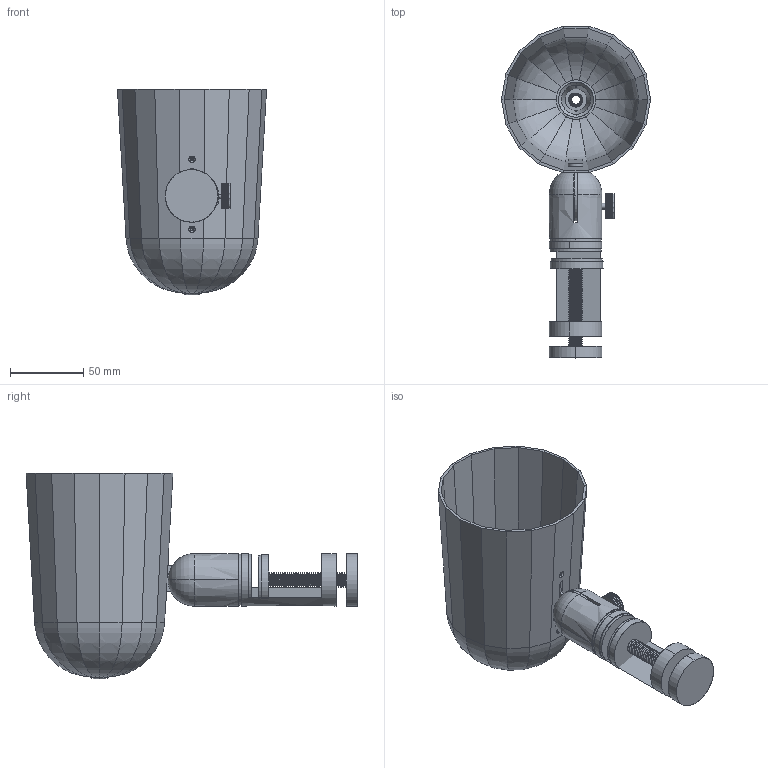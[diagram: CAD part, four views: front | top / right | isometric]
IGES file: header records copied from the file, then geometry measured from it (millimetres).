
Start section: SolidWorks IGES file using analytic representation for surfaces
Global section: file name: C:\Users\Gigi Chan\Desktop\3D file\09_Noc\WL_NocClip_AS01.IGS; native system: SolidWorks 2015; preprocessor: SolidWorks 2015; author: Gigi Chan; date: 161013.152016; units: centimetre
Bounding box: 102 x 226.97 x 140.82 mm (x, y, z)
Surface area: 128248.3 mm2 (no closed solid volume)
Topology: 0 solids, 0 shells, 559 faces, 8426 edges, 8421 vertices
Faces by surface type: revolution 412, bspline 147
